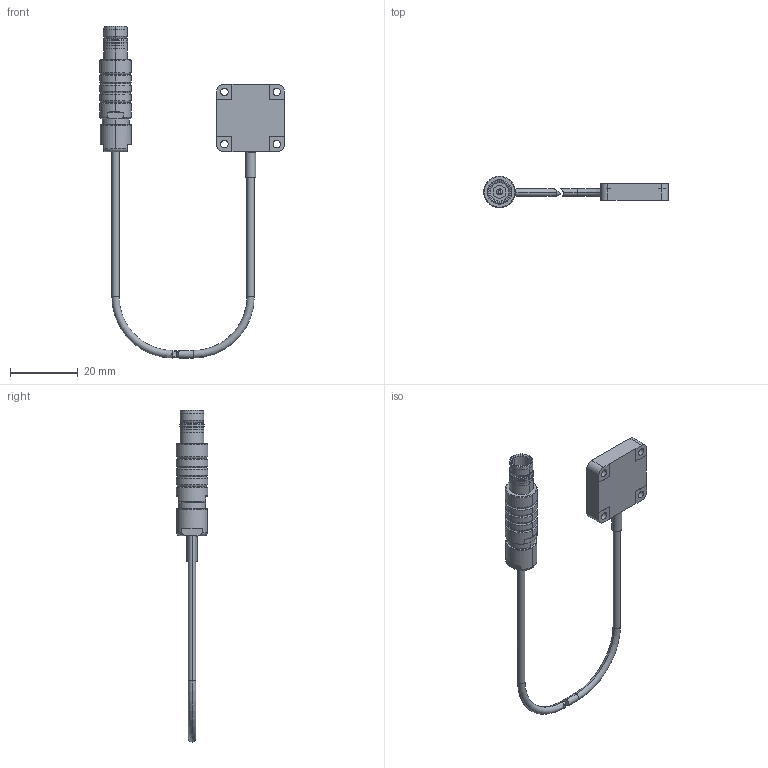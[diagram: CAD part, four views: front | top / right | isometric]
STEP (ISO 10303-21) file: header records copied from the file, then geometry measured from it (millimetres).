
FILE_DESCRIPTION((''),'2;1');
FILE_NAME('Z6610094-A_ASM','2010-11-25T',('11000065'),(''),'PRO/ENGINEER BY PARAMETRIC TECHNOLOGY CORPORATION, 2010180','PRO/ENGINEER BY PARAMETRIC TECHNOLOGY CORPORATION, 2010180','');
FILE_SCHEMA(('AUTOMOTIVE_DESIGN { 1 0 10303 214 1 1 1 1 }'));
Length unit declared in the file: millimetre
Products named in the file (3): Z6610094-A_AF0; 0323139; Z6610094-A_ASM
Assembly tree (2 placements, depth 2):
  Z6610094-A_ASM
    Z6610094-A_AF0
    0323139
Bounding box: 54.7 x 9.4 x 98.36 mm (x, y, z)
Volume: 4418.8 mm3; surface area: 3687.9 mm2
Topology: 3 solids, 3 shells, 168 faces, 372 edges, 226 vertices
Faces by surface type: cylinder 66, plane 44, cone 28, torus 26, extrusion 2, bspline 2
Entity records: 6432 total; most frequent: CARTESIAN_POINT 1064, DIRECTION 888, ORIENTED_EDGE 744, PRESENTATION_STYLE_ASSIGNMENT 389, STYLED_ITEM 375, CURVE_STYLE 372, EDGE_CURVE 372, AXIS2_PLACEMENT_3D 367
